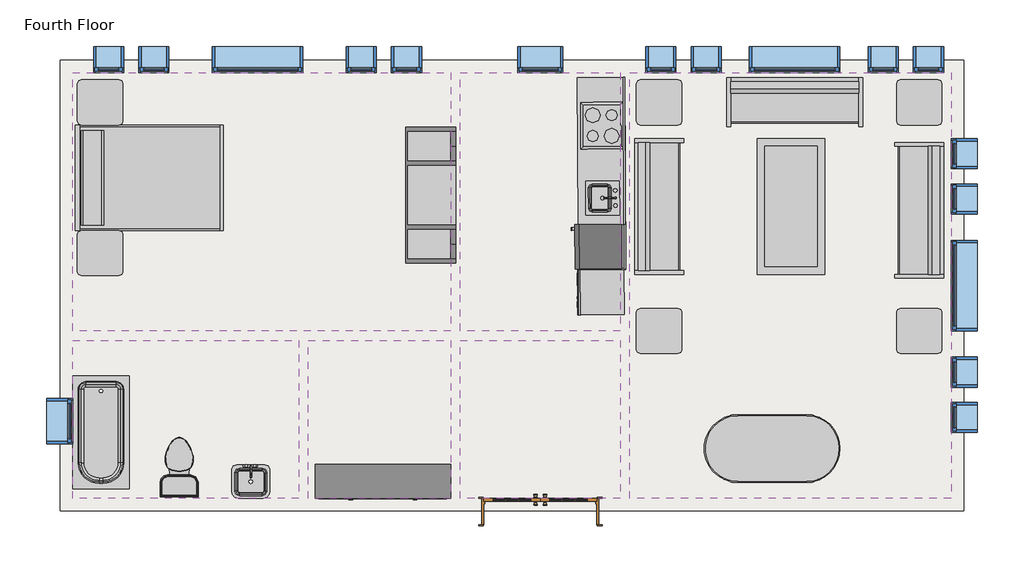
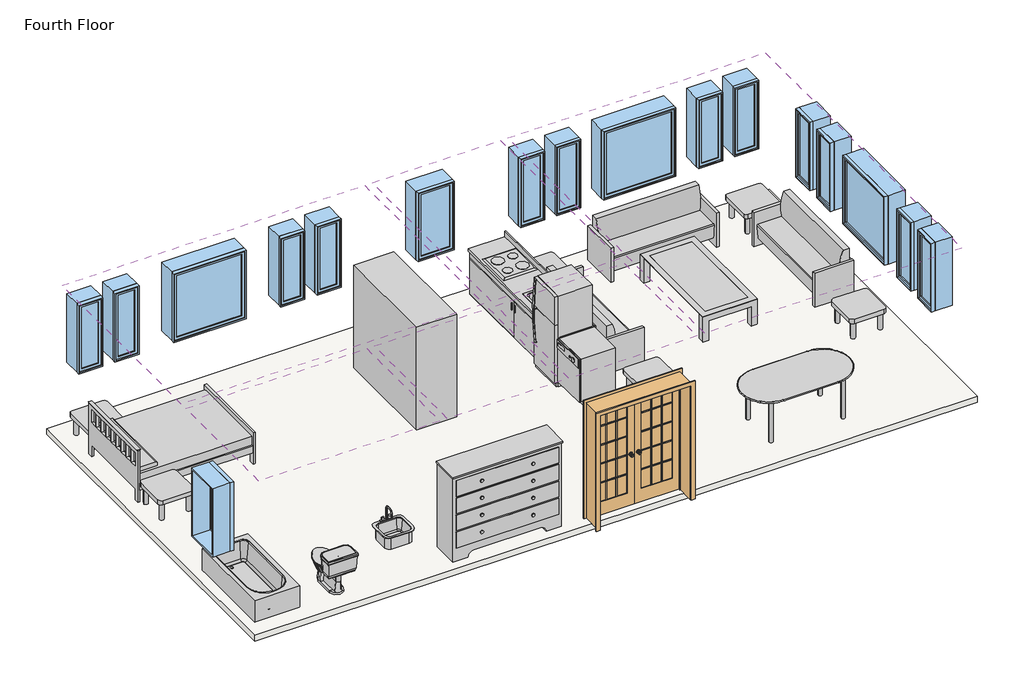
# One storey, incomplete: 17 windows, 15 furniture elements, 6 coverings, 4 flow terminals, 4 proxies, 1 door, 1 slab.
"""IFC4 building model written with IfcOpenShell, lengths in millimetres."""

from ifc_helpers import new_model, si_unit, frame, origin, place, context, project, spatial, polyline, outline, extrude, transform, mapped, element, save
from components import proxy_a6faaae8, proxy_45b28599, proxy_a6516e2b, proxy_c523a7b7, door_bfa3c7dc, flow_terminal_871c2e40, flow_terminal_62a433f7, toilet_domestic_3d_toilet_domestic_3d_f7549cf7, toilet_domestic_3d_toilet_domestic_3d_183bbd19, tub_rectangular_3d_tub_rectangular_3d_c56944d8, furniture_096e7f55, furniture_dc2eca4b, furniture_7c473f12, furniture_cf0b6580, furniture_a4ffab56, furniture_cd93a443, furniture_2c34a4f9, furniture_3a588284, window_da97879f, window_d61ef850, window_60baf983, window_6eb97611

model = new_model("IFC4")

# Units and contexts
model_context = context("Model", 3, world=origin())
ifc_project = project(units=[si_unit("LENGTHUNIT", "METRE", prefix="MILLI")], contexts=[model_context])

# Site, building, storey
site = spatial("IfcSite", under=ifc_project)
building = spatial("IfcBuilding", under=site)
storey = spatial("IfcBuildingStorey", under=building, Name="Fourth Floor", Elevation=9144.0)

# Proxies
placement = place(None, origin())
proxy_shape = proxy_a6faaae8(model_context)
element("IfcBuildingElementProxy", 1, Name="Cook Top-4 Unit2 : 22\" x 20\"", ObjectType="Cook Top-4 Unit2 : 22\" x 20\"", at=placement, inside=storey, context=model_context, shape_type="MappedRepresentation", body=[
    mapped(proxy_shape, transform((2899.8636904, 5211.0114446, 9144.0), x_axis=(0.006017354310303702, -0.9999818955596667, 0.0), y_axis=(0.9999818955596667, 0.006017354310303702, 0.0), z_axis=(0.0, 0.0, 1.0))),
])
proxy_2_shape = proxy_45b28599(model_context)
element("IfcBuildingElementProxy", 2, Name="Dishwasher : 24\" x 24\" x 34\"", ObjectType="Dishwasher : 24\" x 24\" x 34\"", at=placement, inside=storey, context=model_context, shape_type="MappedRepresentation", body=[
    mapped(proxy_2_shape, transform((2619.2452805, 3343.7065262, 9144.0), x_axis=(0.006017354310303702, -0.9999818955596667, 0.0), y_axis=(0.9999818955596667, 0.006017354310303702, 0.0), z_axis=(0.0, 0.0, 1.0))),
])
proxy_3_shape = proxy_a6516e2b(model_context)
element("IfcBuildingElementProxy", 3, Name="Kitchenette - Medium : 8'6\"", ObjectType="Kitchenette - Medium : 8'6\"", at=placement, inside=storey, context=model_context, shape_type="MappedRepresentation", body=[
    mapped(proxy_3_shape, transform((3208.4428612, 4583.8946262, 9144.0), x_axis=(0.006017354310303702, -0.9999818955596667, 0.0), y_axis=(0.9999818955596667, 0.006017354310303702, 0.0), z_axis=(0.0, 0.0, 1.0))),
])
proxy_4_shape = proxy_c523a7b7(model_context)
element("IfcBuildingElementProxy", 4, Name="Refrigerator : 24\" x 25\" LH", ObjectType="Refrigerator : 24\" x 25\" LH", at=placement, inside=storey, context=model_context, shape_type="MappedRepresentation", body=[
    mapped(proxy_4_shape, transform((2864.0355668, 3578.8163041, 9144.0), x_axis=(0.006017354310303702, -0.9999818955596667, 0.0), y_axis=(0.9999818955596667, 0.006017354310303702, 0.0), z_axis=(0.0, 0.0, 1.0))),
])

# Coverings
element("IfcCovering", 5, ObjectType="GWB on Mtl. Stud", at=placement, inside=storey, context=model_context, shape_type="SweptSolid", body=[
    extrude(outline(polyline([(-4235.3446388, 5924.893319), (858.9428612, 5924.893319), (858.9428612, 2441.918319), (-4235.3446388, 2441.918319), (-4235.3446388, 5924.893319)])), frame((0.0, 0.0, 11734.8), z_axis=(0.0, 0.0, 1.0), x_axis=(1.0, 0.0, 0.0)), (0.0, 0.0, 1.0), 107.95),
])
element("IfcCovering", 6, ObjectType="GWB on Mtl. Stud", at=placement, inside=storey, context=model_context, shape_type="SweptSolid", body=[
    extrude(outline(polyline([(985.9428612, 2441.918319), (985.9428612, 5924.893319), (3144.9428612, 5924.893319), (3144.9428612, 2441.918319), (985.9428612, 2441.918319)])), frame((0.0, 0.0, 11734.8), z_axis=(0.0, 0.0, 1.0), x_axis=(1.0, 0.0, 0.0)), (0.0, 0.0, 1.0), 107.95),
])
element("IfcCovering", 7, ObjectType="GWB on Mtl. Stud", at=placement, inside=storey, context=model_context, shape_type="SweptSolid", body=[
    extrude(outline(polyline([(3271.9428612, 181.318319), (3271.9428612, 5924.893319), (7604.2303612, 5924.893319), (7604.2303612, 181.318319), (3271.9428612, 181.318319)])), frame((0.0, 0.0, 11734.8), z_axis=(0.0, 0.0, 1.0), x_axis=(1.0, 0.0, 0.0)), (0.0, 0.0, 1.0), 107.95),
])
element("IfcCovering", 8, ObjectType="GWB on Mtl. Stud", at=placement, inside=storey, context=model_context, shape_type="SweptSolid", body=[
    extrude(outline(polyline([(-1187.3446388, 2314.918319), (-1187.3446388, 181.318319), (-4235.3446388, 181.318319), (-4235.3446388, 2314.918319), (-1187.3446388, 2314.918319)])), frame((0.0, 0.0, 11734.8), z_axis=(0.0, 0.0, 1.0), x_axis=(1.0, 0.0, 0.0)), (0.0, 0.0, 1.0), 107.95),
])
element("IfcCovering", 9, ObjectType="GWB on Mtl. Stud", at=placement, inside=storey, context=model_context, shape_type="SweptSolid", body=[
    extrude(outline(polyline([(858.9428612, 181.318319), (-1060.3446388, 181.318319), (-1060.3446388, 2314.918319), (858.9428612, 2314.918319), (858.9428612, 181.318319)])), frame((0.0, 0.0, 11734.8), z_axis=(0.0, 0.0, 1.0), x_axis=(1.0, 0.0, 0.0)), (0.0, 0.0, 1.0), 107.95),
])
element("IfcCovering", 10, ObjectType="GWB on Mtl. Stud", at=placement, inside=storey, context=model_context, shape_type="SweptSolid", body=[
    extrude(outline(polyline([(3144.9428612, 181.318319), (985.9428612, 181.318319), (985.9428612, 2314.918319), (3144.9428612, 2314.918319), (3144.9428612, 181.318319)])), frame((0.0, 0.0, 11734.8), z_axis=(0.0, 0.0, 1.0), x_axis=(1.0, 0.0, 0.0)), (0.0, 0.0, 1.0), 107.95),
])

# Door
door_shape = door_bfa3c7dc(model_context)
element("IfcDoor", 11, ObjectType="Door-Interior-Double-Full Glass-Wood : 60\" x 80\"", at=placement, inside=storey, context=model_context, shape_type="MappedRepresentation", body=[
    mapped(door_shape, transform((2065.4428612, 8.280819, 9144.0), x_axis=(1.0, 0.0, 0.0), y_axis=(0.0, 1.0, 0.0), z_axis=(0.0, 0.0, 1.0))),
])

# Flow terminals
flow_terminal_shape = flow_terminal_871c2e40(model_context)
element("IfcFlowTerminal", 12, ObjectType="Sink Kitchen-Island : 18\" x 18\"", at=placement, inside=storey, context=model_context, shape_type="MappedRepresentation", body=[
    mapped(flow_terminal_shape, transform((2903.3082949, 4248.8039924, 9129.6), x_axis=(0.006017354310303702, -0.9999818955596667, 0.0), y_axis=(0.9999818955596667, 0.006017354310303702, 0.0), z_axis=(0.0, 0.0, 1.0))),
])
flow_terminal_2_shape = flow_terminal_62a433f7(model_context)
element("IfcFlowTerminal", 13, ObjectType="Sink Vanity-Square : 20\" x 18\"", at=placement, inside=storey, context=model_context, shape_type="MappedRepresentation", body=[
    mapped(flow_terminal_2_shape, transform((-1850.7338794, 458.3729179, 9144.0), x_axis=(1.0, 0.0, 0.0), y_axis=(0.0, 1.0, 0.0), z_axis=(0.0, 0.0, 1.0))),
])
toilet_domestic_3d_toilet_domestic_3d_shape = toilet_domestic_3d_toilet_domestic_3d_f7549cf7(model_context)
toilet_domestic_3d_toilet_domestic_3d_2_shape = toilet_domestic_3d_toilet_domestic_3d_183bbd19(model_context)
element("IfcFlowTerminal", 14, ObjectType="Toilet-Domestic-3D : Toilet-Domestic-3D", at=placement, inside=storey, context=model_context, shape_type="MappedRepresentation", body=[
    mapped(toilet_domestic_3d_toilet_domestic_3d_shape, transform((-2800.2446388, 702.018319, 9144.0), x_axis=(-1.0, 0.0, 0.0), y_axis=(0.0, -1.0, 0.0), z_axis=(0.0, 0.0, 1.0))),
    mapped(toilet_domestic_3d_toilet_domestic_3d_2_shape, transform((-2800.2446388, 702.018319, 9144.0), x_axis=(-1.0, 0.0, 0.0), y_axis=(0.0, -1.0, 0.0), z_axis=(0.0, 0.0, 1.0))),
])
tub_rectangular_3d_tub_rectangular_3d_shape = tub_rectangular_3d_tub_rectangular_3d_c56944d8(model_context)
element("IfcFlowTerminal", 15, ObjectType="Tub-Rectangular-3D : Tub-Rectangular-3D", at=placement, inside=storey, context=model_context, shape_type="MappedRepresentation", body=[
    mapped(tub_rectangular_3d_tub_rectangular_3d_shape, transform((-4411.5571388, 723.3028503, 9144.0), x_axis=(0.0, -1.0, 0.0), y_axis=(1.0, 0.0, 0.0), z_axis=(0.0, 0.0, 1.0))),
])

# Furniture
furniture_shape = furniture_096e7f55(model_context)
element("IfcFurniture", 16, ObjectType="Bed-Shaker : Double 56\" x 78\"", at=placement, inside=storey, context=model_context, shape_type="MappedRepresentation", body=[
    mapped(furniture_shape, transform((-4190.1896154, 4526.4534268, 9144.0), x_axis=(-0.00030117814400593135, 0.9999999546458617, 0.0), y_axis=(-0.9999999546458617, -0.00030117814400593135, 0.0), z_axis=(0.0, 0.0, 1.0))),
])
furniture_2_shape = furniture_dc2eca4b(model_context)
element("IfcFurniture", 17, ObjectType="Counter Top w Sink Hole : 24\" Depth", at=placement, inside=storey, context=model_context, shape_type="MappedRepresentation", body=[
    mapped(furniture_2_shape, transform((3207.9843388, 4660.0932466, 9129.6), x_axis=(0.006017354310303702, -0.9999818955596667, 0.0), y_axis=(0.9999818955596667, 0.006017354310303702, 0.0), z_axis=(0.0, 0.0, 1.0))),
])
furniture_3_shape = furniture_7c473f12(model_context)
element("IfcFurniture", 18, ObjectType="Dresser : 72\" x 60\" x 18\"", at=placement, inside=storey, context=model_context, shape_type="MappedRepresentation", body=[
    mapped(furniture_3_shape, transform((213.736121, 773.0812731, 9144.0), x_axis=(1.0, 0.0, 0.0), y_axis=(0.0, 1.0, 0.0), z_axis=(0.0, 0.0, 1.0))),
])
furniture_4_shape = furniture_cf0b6580(model_context)
element("IfcFurniture", 19, ObjectType="Entertainment Center : 72\" x 72\" x 24\"", at=placement, inside=storey, context=model_context, shape_type="MappedRepresentation", body=[
    mapped(furniture_4_shape, transform((147.7428612, 4272.305819, 9144.0), x_axis=(0.0, 1.0, 0.0), y_axis=(-1.0, 0.0, 0.0), z_axis=(0.0, 0.0, 1.0))),
])
furniture_5_shape = furniture_a4ffab56(model_context)
element("IfcFurniture", 20, ObjectType="Sofa : 72\"", at=placement, inside=storey, context=model_context, shape_type="MappedRepresentation", body=[
    mapped(furniture_5_shape, transform((5424.0723694, 5377.3466921, 9144.0), x_axis=(1.0, 0.0, 0.0), y_axis=(0.0, 1.0, 0.0), z_axis=(0.0, 0.0, 1.0))),
])
element("IfcFurniture", 21, ObjectType="Sofa : 72\"", at=placement, inside=storey, context=model_context, shape_type="MappedRepresentation", body=[
    mapped(furniture_5_shape, transform((3811.7969596, 4049.5353272, 9144.0), x_axis=(0.0, 1.0000000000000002, 0.0), y_axis=(-1.0000000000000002, 0.0, 0.0), z_axis=(0.0, 0.0, 1.0))),
])
element("IfcFurniture", 22, ObjectType="Sofa : 72\"", at=placement, inside=storey, context=model_context, shape_type="MappedRepresentation", body=[
    mapped(furniture_5_shape, transform((7024.6887628, 4139.4763108, 9144.0), x_axis=(0.0, -1.0, 0.0), y_axis=(1.0, 0.0, 0.0), z_axis=(0.0, 0.0, 1.0))),
])
furniture_6_shape = furniture_cd93a443(model_context)
element("IfcFurniture", 23, ObjectType="Table-Coffee : 36\" x 72\" x 18\"", at=placement, inside=storey, context=model_context, shape_type="MappedRepresentation", body=[
    mapped(furniture_6_shape, transform((5538.853939, 4101.6400523, 9144.0), x_axis=(0.0, 1.0, 0.0), y_axis=(-1.0, 0.0, 0.0), z_axis=(0.0, 0.0, 1.0))),
])
furniture_7_shape = furniture_2c34a4f9(model_context)
element("IfcFurniture", 24, ObjectType="Table-Dining Oval : 36\" x 72\"", at=placement, inside=storey, context=model_context, shape_type="MappedRepresentation", body=[
    mapped(furniture_7_shape, transform((5591.4625333, 1212.5166797, 9144.0), x_axis=(1.0, 0.0, 0.0), y_axis=(0.0, 1.0, 0.0), z_axis=(0.0, 0.0, 1.0))),
])
furniture_8_shape = furniture_3a588284(model_context)
element("IfcFurniture", 25, ObjectType="Table-End : 24\" x 24\"", at=placement, inside=storey, context=model_context, shape_type="MappedRepresentation", body=[
    mapped(furniture_8_shape, transform((-4175.5782691, 5371.1007905, 9144.0), x_axis=(1.0, 0.0, 0.0), y_axis=(0.0, 1.0, 0.0), z_axis=(0.0, 0.0, 1.0))),
])
element("IfcFurniture", 26, ObjectType="Table-End : 24\" x 24\"", at=placement, inside=storey, context=model_context, shape_type="MappedRepresentation", body=[
    mapped(furniture_8_shape, transform((-4175.5782691, 3339.0089188, 9144.0), x_axis=(1.0, 0.0, 0.0), y_axis=(0.0, 1.0, 0.0), z_axis=(0.0, 0.0, 1.0))),
])
element("IfcFurniture", 27, ObjectType="Table-End : 24\" x 24\"", at=placement, inside=storey, context=model_context, shape_type="MappedRepresentation", body=[
    mapped(furniture_8_shape, transform((3357.1092309, 5371.1007905, 9144.0), x_axis=(1.0, 0.0, 0.0), y_axis=(0.0, 1.0, 0.0), z_axis=(0.0, 0.0, 1.0))),
])
element("IfcFurniture", 28, ObjectType="Table-End : 24\" x 24\"", at=placement, inside=storey, context=model_context, shape_type="MappedRepresentation", body=[
    mapped(furniture_8_shape, transform((3357.1092309, 2289.518319, 9144.0), x_axis=(1.0, 0.0, 0.0), y_axis=(0.0, 1.0, 0.0), z_axis=(0.0, 0.0, 1.0))),
])
element("IfcFurniture", 29, ObjectType="Table-End : 24\" x 24\"", at=placement, inside=storey, context=model_context, shape_type="MappedRepresentation", body=[
    mapped(furniture_8_shape, transform((6862.3092309, 2289.518319, 9144.0), x_axis=(1.0, 0.0, 0.0), y_axis=(0.0, 1.0, 0.0), z_axis=(0.0, 0.0, 1.0))),
])
element("IfcFurniture", 30, ObjectType="Table-End : 24\" x 24\"", at=placement, inside=storey, context=model_context, shape_type="MappedRepresentation", body=[
    mapped(furniture_8_shape, transform((6862.3092309, 5371.1007905, 9144.0), x_axis=(1.0, 0.0, 0.0), y_axis=(0.0, 1.0, 0.0), z_axis=(0.0, 0.0, 1.0))),
])

# Slab
element("IfcSlab", 31, ObjectType="LW Concrete on Metal Deck", at=placement, inside=storey, context=model_context, shape_type="SweptSolid", body=[
    extrude(outline(polyline([(7769.3303612, 6089.993319), (7769.3303612, 16.218319), (-4400.4446388, 16.218319), (-4400.4446388, 6089.993319), (7769.3303612, 6089.993319)])), frame((0.0, 0.0, 9039.225), z_axis=(0.0, 0.0, 1.0), x_axis=(1.0, 0.0, 0.0)), (0.0, 0.0, 1.0), 104.775),
])

# Windows
window_shape = window_da97879f(model_context)
element("IfcWindow", 32, ObjectType="Fixed : 16\" x 48\"", at=placement, inside=storey, context=model_context, shape_type="MappedRepresentation", body=[
    mapped(window_shape, transform((-3789.2571388, 6101.105819, 9144.0), x_axis=(-1.0, 0.0, 0.0), y_axis=(0.0, -1.0, 0.0), z_axis=(0.0, 0.0, 1.0))),
])
element("IfcWindow", 33, ObjectType="Fixed : 16\" x 48\"", at=placement, inside=storey, context=model_context, shape_type="MappedRepresentation", body=[
    mapped(window_shape, transform((-3179.6571388, 6101.105819, 9144.0), x_axis=(-1.0, 0.0, 0.0), y_axis=(0.0, -1.0, 0.0), z_axis=(0.0, 0.0, 1.0))),
])
element("IfcWindow", 34, ObjectType="Fixed : 16\" x 48\"", at=placement, inside=storey, context=model_context, shape_type="MappedRepresentation", body=[
    mapped(window_shape, transform((3652.9428612, 6101.105819, 9144.0), x_axis=(-1.0, 0.0, 0.0), y_axis=(0.0, -1.0, 0.0), z_axis=(0.0, 0.0, 1.0))),
])
element("IfcWindow", 35, ObjectType="Fixed : 16\" x 48\"", at=placement, inside=storey, context=model_context, shape_type="MappedRepresentation", body=[
    mapped(window_shape, transform((4262.5428612, 6101.105819, 9144.0), x_axis=(-1.0, 0.0, 0.0), y_axis=(0.0, -1.0, 0.0), z_axis=(0.0, 0.0, 1.0))),
])
element("IfcWindow", 36, ObjectType="Fixed : 16\" x 48\"", at=placement, inside=storey, context=model_context, shape_type="MappedRepresentation", body=[
    mapped(window_shape, transform((7780.4428612, 4869.205819, 9144.0), x_axis=(0.0, 1.0, 0.0), y_axis=(-1.0, 0.0, 0.0), z_axis=(0.0, 0.0, 1.0))),
])
element("IfcWindow", 37, ObjectType="Fixed : 16\" x 48\"", at=placement, inside=storey, context=model_context, shape_type="MappedRepresentation", body=[
    mapped(window_shape, transform((7780.4428612, 4259.605819, 9144.0), x_axis=(0.0, 1.0, 0.0), y_axis=(-1.0, 0.0, 0.0), z_axis=(0.0, 0.0, 1.0))),
])
window_2_shape = window_d61ef850(model_context)
element("IfcWindow", 38, ObjectType="Fixed : 16\" x 48\"", at=placement, inside=storey, context=model_context, shape_type="MappedRepresentation", body=[
    mapped(window_2_shape, transform((300.1428612, 6101.105819, 9144.0), x_axis=(1.0, 0.0, 0.0), y_axis=(0.0, 1.0, 0.0), z_axis=(0.0, 0.0, 1.0))),
])
element("IfcWindow", 39, ObjectType="Fixed : 16\" x 48\"", at=placement, inside=storey, context=model_context, shape_type="MappedRepresentation", body=[
    mapped(window_2_shape, transform((-309.4571388, 6101.105819, 9144.0), x_axis=(1.0, 0.0, 0.0), y_axis=(0.0, 1.0, 0.0), z_axis=(0.0, 0.0, 1.0))),
])
element("IfcWindow", 40, ObjectType="Fixed : 16\" x 48\"", at=placement, inside=storey, context=model_context, shape_type="MappedRepresentation", body=[
    mapped(window_2_shape, transform((7335.9428612, 6101.105819, 9144.0), x_axis=(1.0, 0.0, 0.0), y_axis=(0.0, 1.0, 0.0), z_axis=(0.0, 0.0, 1.0))),
])
element("IfcWindow", 41, ObjectType="Fixed : 16\" x 48\"", at=placement, inside=storey, context=model_context, shape_type="MappedRepresentation", body=[
    mapped(window_2_shape, transform((6726.3428612, 6101.105819, 9144.0), x_axis=(1.0, 0.0, 0.0), y_axis=(0.0, 1.0, 0.0), z_axis=(0.0, 0.0, 1.0))),
])
element("IfcWindow", 42, ObjectType="Fixed : 16\" x 48\"", at=placement, inside=storey, context=model_context, shape_type="MappedRepresentation", body=[
    mapped(window_2_shape, transform((7780.4428612, 1237.005819, 9144.0), x_axis=(0.0, -1.0, 0.0), y_axis=(1.0, 0.0, 0.0), z_axis=(0.0, 0.0, 1.0))),
])
element("IfcWindow", 43, ObjectType="Fixed : 16\" x 48\"", at=placement, inside=storey, context=model_context, shape_type="MappedRepresentation", body=[
    mapped(window_2_shape, transform((7780.4428612, 1846.605819, 9144.0), x_axis=(0.0, -1.0, 0.0), y_axis=(1.0, 0.0, 0.0), z_axis=(0.0, 0.0, 1.0))),
])
window_3_shape = window_60baf983(model_context)
element("IfcWindow", 44, ObjectType="Fixed : 24\" x 48\"", at=placement, inside=storey, context=model_context, shape_type="MappedRepresentation", body=[
    mapped(window_3_shape, transform((2027.3428612, 6101.105819, 9144.0), x_axis=(-1.0, 0.0, 0.0), y_axis=(0.0, -1.0, 0.0), z_axis=(0.0, 0.0, 1.0))),
])
element("IfcWindow", 45, ObjectType="Fixed : 24\" x 48\"", at=placement, inside=storey, context=model_context, shape_type="MappedRepresentation", body=[
    mapped(window_3_shape, transform((-4411.5571388, 1186.205819, 9144.0), x_axis=(0.0, -1.0, 0.0), y_axis=(1.0, 0.0, 0.0), z_axis=(0.0, 0.0, 1.0))),
])
window_4_shape = window_6eb97611(model_context)
element("IfcWindow", 46, ObjectType="Fixed : 48\" x 48\"", at=placement, inside=storey, context=model_context, shape_type="MappedRepresentation", body=[
    mapped(window_4_shape, transform((-1782.6571388, 6101.105819, 9144.0), x_axis=(-1.0, 0.0, 0.0), y_axis=(0.0, -1.0, 0.0), z_axis=(0.0, 0.0, 1.0))),
])
element("IfcWindow", 47, ObjectType="Fixed : 48\" x 48\"", at=placement, inside=storey, context=model_context, shape_type="MappedRepresentation", body=[
    mapped(window_4_shape, transform((5456.3428612, 6101.105819, 9144.0), x_axis=(-1.0, 0.0, 0.0), y_axis=(0.0, -1.0, 0.0), z_axis=(0.0, 0.0, 1.0))),
])
element("IfcWindow", 48, ObjectType="Fixed : 48\" x 48\"", at=placement, inside=storey, context=model_context, shape_type="MappedRepresentation", body=[
    mapped(window_4_shape, transform((7780.4428612, 3091.205819, 9144.0), x_axis=(0.0, 1.0, 0.0), y_axis=(-1.0, 0.0, 0.0), z_axis=(0.0, 0.0, 1.0))),
])

save(model, "model.ifc")
